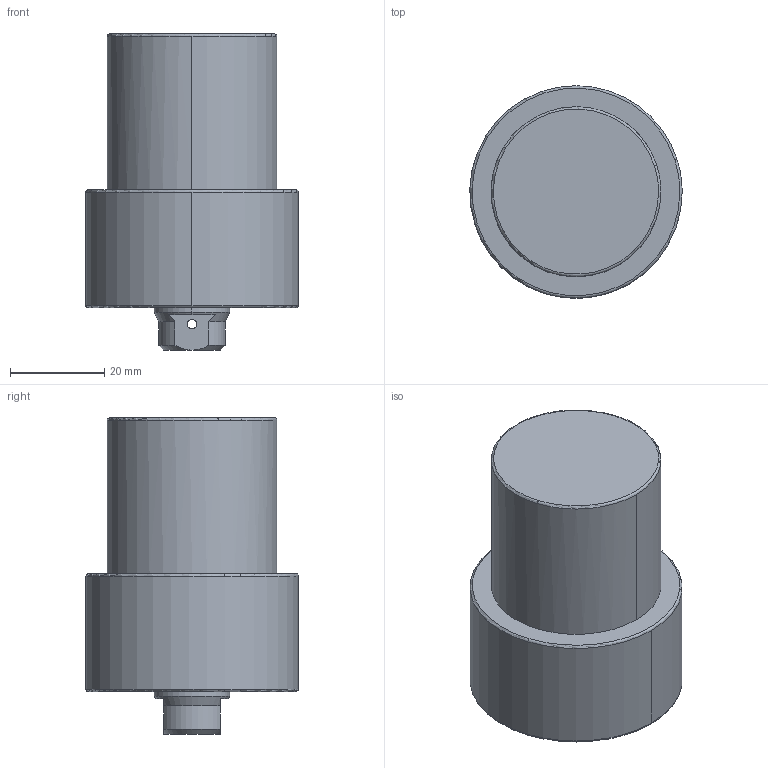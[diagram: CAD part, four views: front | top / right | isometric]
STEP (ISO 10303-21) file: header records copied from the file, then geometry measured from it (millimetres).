
FILE_DESCRIPTION((' '),'2;1');
FILE_NAME( 'TLLU-036GB-025.STEP.stp', '2025-10-24T16:37:05', (' '), ('--- Datakit www.datakit.com---'), ' Datakit CrossCadWare V2024.1 Dec 21 2023', 'Mastercam 2025', ' ');
FILE_SCHEMA(('AUTOMOTIVE_DESIGN { 1 0 10303 214 1 1 1 1 }'));
Length unit declared in the file: millimetre
Products named in the file (1): TLLU-036GB-025
Bounding box: 44.99 x 45 x 67 mm (x, y, z)
Volume: 73734.3 mm3; surface area: 11596.6 mm2
Topology: 1 solids, 1 shells, 66 faces, 192 edges, 125 vertices
Faces by surface type: cylinder 26, cone 24, plane 10, torus 6
Entity records: 2820 total; most frequent: CARTESIAN_POINT 1010, DIRECTION 412, ORIENTED_EDGE 364, EDGE_CURVE 182, AXIS2_PLACEMENT_3D 179, VERTEX_POINT 125, CIRCLE 112, EDGE_LOOP 77
